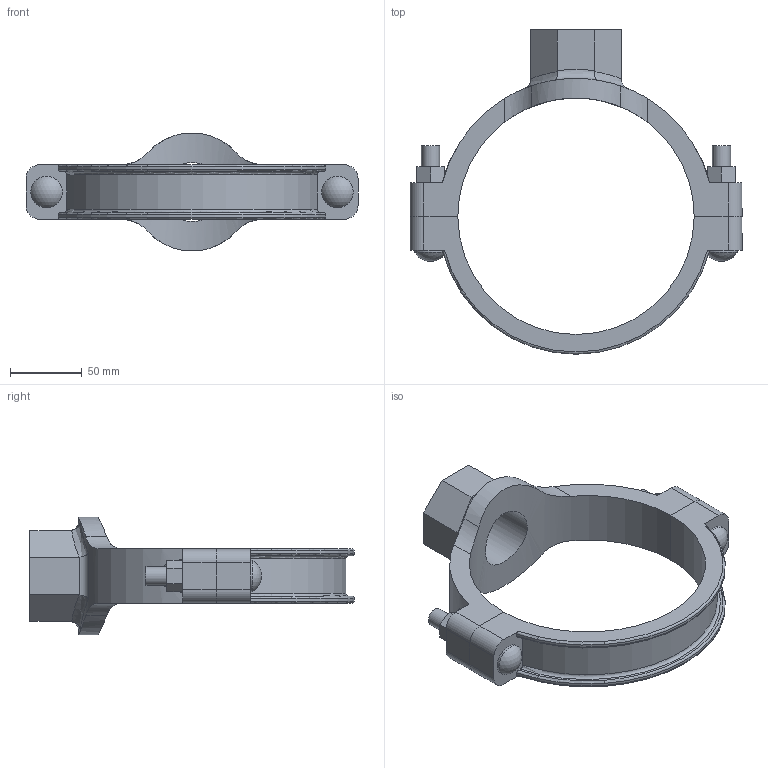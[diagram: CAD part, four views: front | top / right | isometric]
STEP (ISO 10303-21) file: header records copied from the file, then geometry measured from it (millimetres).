
FILE_DESCRIPTION(/* description */ (''),/* implementation_level */ '2;1');
FILE_NAME(/* name */ 'P:\Inventor CPS India\2018\920N\STEP\Mechanical-T_Style_920N_Threaded_[3D]\OUTLET_06.0x01.5 (165.1x40)_920N (THD).stp',/* time_stamp */ '2018-07-13T15:13:03+06:00',/* author */ ('Vjadhav'),/* organization */ (''),/* preprocessor_version */ 'ST-DEVELOPER v15.6',/* originating_system */ 'Autodesk Inventor 2015',/* authorisation */ '');
FILE_SCHEMA (('AUTOMOTIVE_DESIGN { 1 0 10303 214 3 1 1 }'));
Length unit declared in the file: inch
Products named in the file (3): 920N LOWER HSG-12; 920NT-HSG-44; 920NT
Bounding box: 231.9 x 226.57 x 82.42 mm (x, y, z)
Volume: 407357.9 mm3; surface area: 100064.1 mm2
Topology: 2 solids, 2 shells, 112 faces, 292 edges, 196 vertices
Faces by surface type: plane 58, cylinder 40, torus 8, bspline 4, sphere 2
Full cylindrical faces by diameter (mm): 12.7 x4, 21.982 x2, 41.275 x1, 48.26 x1
Entity records: 4082 total; most frequent: CARTESIAN_POINT 1196, ORIENTED_EDGE 560, DIRECTION 546, EDGE_CURVE 280, AXIS2_PLACEMENT_3D 196, VERTEX_POINT 192, LINE 154, VECTOR 154
